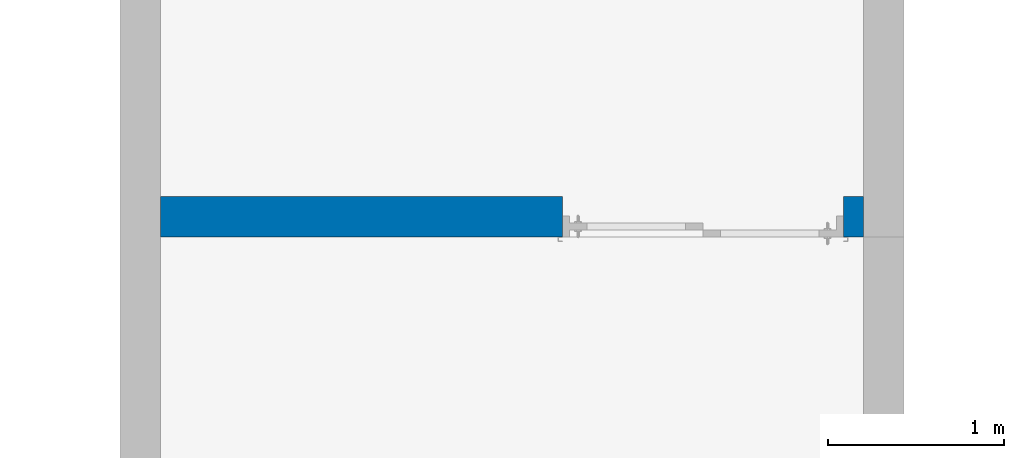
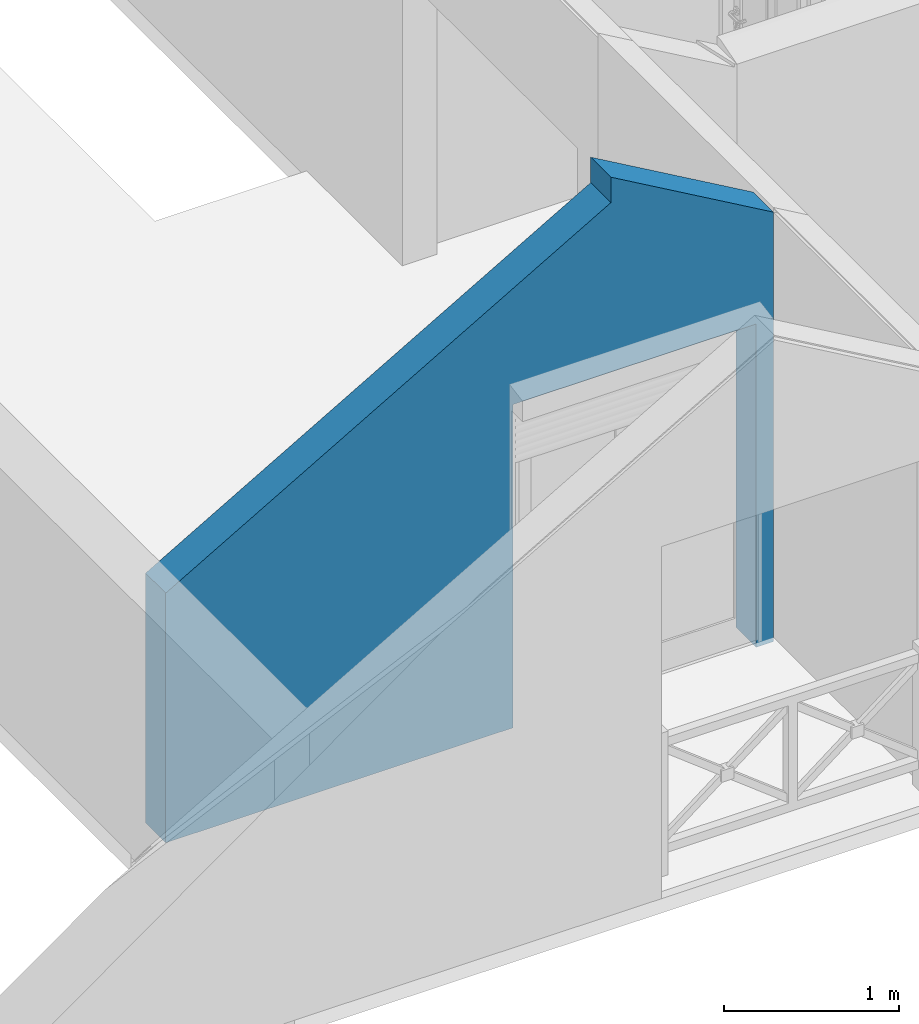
# One storey, part 4 of 8: 1 wall, 1 opening.
"""IFC2X3 building model written with IfcOpenShell, lengths in metres."""

from ifc_helpers import new_model, entity, si_unit, converted_unit, derived_unit, money_unit, direction, frame, origin_with_axes, origin_2d_with_axis, place, context, subcontext, project, spatial, polyline, rectangle, outline, extrude, boolean, clip, bounded_halfspace, faceted_brep, material, type_object, element, save


model = new_model("IFC2X3")

# Units and contexts
model_context = context("Model", 3, precision=1e-05, world=origin_with_axes(), true_north=direction((0.0, 1.0)))
body_context = subcontext(model_context, "Body", "Model", "MODEL_VIEW")
ifc_project = project(units=[si_unit("LENGTHUNIT", "METRE"), si_unit("AREAUNIT", "SQUARE_METRE"), si_unit("VOLUMEUNIT", "CUBIC_METRE"), converted_unit("PLANEANGLEUNIT", "DEGREE", entity("IfcPlaneAngleMeasure", 0.0174532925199), si_unit("PLANEANGLEUNIT", "RADIAN"), dimensions=[0, 0, 0, 0, 0, 0, 0]), si_unit("SOLIDANGLEUNIT", "STERADIAN"), money_unit("CHF"), converted_unit("TIMEUNIT", "Year", entity("IfcTimeMeasure", 31556926.0), si_unit("TIMEUNIT", "SECOND"), dimensions=[0, 0, 1, 0, 0, 0, 0]), si_unit("MASSUNIT", "GRAM", prefix="KILO"), si_unit("THERMODYNAMICTEMPERATUREUNIT", "DEGREE_CELSIUS"), si_unit("LUMINOUSINTENSITYUNIT", "LUMEN"), si_unit("ENERGYUNIT", "JOULE", prefix="MEGA"), derived_unit("THERMALCONDUCTANCEUNIT", [(si_unit("POWERUNIT", "WATT"), 1), (si_unit("LENGTHUNIT", "METRE"), -1), (si_unit("THERMODYNAMICTEMPERATUREUNIT", "KELVIN"), -1)]), derived_unit("SPECIFICHEATCAPACITYUNIT", [(si_unit("ENERGYUNIT", "JOULE"), 1), (si_unit("MASSUNIT", "GRAM", prefix="KILO"), -1), (si_unit("THERMODYNAMICTEMPERATUREUNIT", "KELVIN"), -1)]), derived_unit("MASSDENSITYUNIT", [(si_unit("MASSUNIT", "GRAM", prefix="KILO"), 1), (si_unit("VOLUMEUNIT", "CUBIC_METRE"), -1)])], contexts=[model_context])

# Site, building, storey
site_placement = place(None, origin_with_axes())
site = spatial("IfcSite", under=ifc_project, at=site_placement, Name="Site", CompositionType="ELEMENT")
building_placement = place(site_placement, origin_with_axes())
building = spatial("IfcBuilding", under=site, at=building_placement, Name="Bâtiment", CompositionType="ELEMENT")
storey_placement = place(building_placement, frame((0.0, 0.0, 6.0), z_axis=(0.0, 0.0, 1.0), x_axis=(1.0, 0.0, 0.0)))
storey = spatial("IfcBuildingStorey", under=building, at=storey_placement, Name="COMBLES", CompositionType="ELEMENT", Elevation=6.0)

# Wall, opening
ifc_material = material(Name="Hachure solide 2628782308")
wall_type = type_object("IfcWallType", Name="Hachure solide 2628782308 230", PredefinedType="NOTDEFINED")
wall_placement = place(storey_placement, frame((87.7435190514, 9.04926660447, -3.37), z_axis=(0.0, 0.0, 1.0), x_axis=(1.0, 0.0, 0.0)))
wall = element("IfcWall", 1, at=wall_placement, inside=storey, type_object=wall_type, material=ifc_material, Name="MurExt-016", context=body_context, shape_type="CSG", body=[
    boolean("DIFFERENCE", boolean("DIFFERENCE", clip(clip(clip(clip(clip(extrude(outline(polyline([(0.0, 0.0), (4.23, 0.0), (4.23, 0.23), (0.0, 0.23), (0.0, 0.0)])), origin_with_axes(), (0.0, 0.0, 1.0), 4.0), bounded_halfspace(frame((-0.752468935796, 0.0, 1.30331442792), z_axis=(0.5, 0.0, -0.866025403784), x_axis=(0.0, 1.0, 0.0)), True, origin_with_axes(), polyline([(-3.24001000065, -0.01), (2.92999999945, -0.01), (2.92999999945, 0.24), (-3.24001000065, 0.24), (-3.24001000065, -0.01)]))), bounded_halfspace(frame((-0.839071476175, 0.0, 1.45331442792), z_axis=(0.5, 0.0, -0.866025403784), x_axis=(0.0, 1.0, 0.0)), True, origin_with_axes(), polyline([(-3.24001000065, -0.01), (2.92999999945, -0.01), (2.92999999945, 0.24), (-3.24001000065, 0.24), (-3.24001000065, -0.01)]))), bounded_halfspace(frame((-0.839071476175, 0.0, 1.45331442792), z_axis=(0.5, 0.0, -0.866025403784), x_axis=(0.0, 1.0, 0.0)), True, origin_with_axes(), polyline([(-3.24001000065, -0.01), (2.92999999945, -0.01), (2.92999999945, 0.24), (-3.24001000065, 0.24), (-3.24001000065, -0.01)]))), bounded_halfspace(frame((2.3040714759, 0.0, 3.99076886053), z_axis=(-0.5, 0.0, -0.866025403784), x_axis=(0.0, 1.0, 0.0)), True, origin_with_axes(), polyline([(2.92999999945, -0.01), (9.10001002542, -0.01), (9.10001002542, 0.24), (2.92999999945, 0.24), (2.92999999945, -0.01)]))), bounded_halfspace(frame((2.30840160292, 0.0, 3.99826886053), z_axis=(-0.5, 0.0, -0.866025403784), x_axis=(0.0, 1.0, 0.0)), True, origin_with_axes(), polyline([(2.92999999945, -0.01), (9.10001002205, -0.01), (9.10001002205, 0.24), (2.92999999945, 0.24), (2.92999999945, -0.01)]))), faceted_brep([(2.286535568, 0.23, 0.0), (2.286535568, 0.23, 0.05), (3.886535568, 0.23, 0.05), (3.886535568, 0.23, 0.0), (2.286535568, 0.0, 0.0), (2.286535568, 0.0, 0.05), (3.886535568, 0.0, 0.05), (3.886535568, 0.0, 0.0)], [[[0, 1, 2, 3]], [[1, 0, 4, 5]], [[2, 1, 5, 6]], [[3, 2, 6, 7]], [[4, 0, 3, 7]], [[5, 4, 7, 6]]])), faceted_brep([(2.92999999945, 0.23, 3.63), (4.0, 0.23, 3.01223521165), (4.0, 0.23, 3.02162407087), (2.92999999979, 0.23, 3.63938885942), (0.0, 0.23, 1.94775257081), (0.0, 0.23, 1.95929957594), (2.75321201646, 0.23, 3.54886727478), (2.75321201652, 0.23, 3.5546407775), (2.92999999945, 0.23, 3.65670936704), (3.10678798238, 0.23, 3.5546407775), (3.10678798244, 0.23, 3.54886727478), (4.0, 0.23, 3.033171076), (4.0, 0.23, 3.18), (4.23, 0.23, 3.18), (4.23, 0.23, 0.0), (4.0, 0.23, 0.0), (4.0, 0.23, 2.9891412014), (2.92999999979, 0.23, 3.60690598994), (0.0, 0.23, 1.91526970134), (0.0, 0.23, 1.93836371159), (2.92999999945, 0.0, 3.63), (4.0, 0.0, 3.01223521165), (4.0, 0.0, 3.02162407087), (2.92999999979, 0.0, 3.63938885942), (0.0, 0.0, 1.94775257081), (0.0, 0.0, 1.95929957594), (2.75345606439, 0.0, 3.54900817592), (2.75345606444, 0.0, 3.55478167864), (2.92999999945, 0.0, 3.65670936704), (3.10654393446, 0.0, 3.55478167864), (3.10654393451, 0.0, 3.54900817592), (4.0, 0.0, 3.033171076), (4.0, 0.0, 3.18), (4.23, 0.0, 3.18), (4.23, 0.0, 0.0), (4.0, 0.0, 0.0), (4.0, 0.0, 2.9891412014), (2.92999999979, 0.0, 3.60690598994), (0.0, 0.0, 1.91526970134), (0.0, 0.0, 1.93836371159)], [[[0, 1, 2, 3, 4, 5, 6, 7, 8, 9, 10, 11, 12, 13, 14, 15, 16, 17, 18, 19]], [[1, 0, 20, 21]], [[2, 1, 21, 22]], [[3, 2, 22, 23]], [[4, 3, 23, 24]], [[4, 24, 25, 5]], [[25, 26, 6, 5]], [[26, 27, 7, 6]], [[8, 7, 27, 28]], [[9, 8, 28, 29]], [[10, 9, 29, 30]], [[11, 10, 30, 31]], [[12, 11, 31, 32]], [[33, 13, 12, 32]], [[13, 33, 34, 14]], [[35, 15, 14, 34]], [[16, 15, 35, 36]], [[17, 16, 36, 37]], [[18, 17, 37, 38]], [[39, 19, 18, 38]], [[0, 19, 39, 20]], [[20, 39, 38, 37, 36, 35, 34, 33, 32, 31, 30, 29, 28, 27, 26, 25, 24, 23, 22, 21]]])),
])
opening_placement = place(wall_placement, frame((3.086535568, 0.0, 0.05), z_axis=(0.0, 0.0, 1.0), x_axis=(1.0, 0.0, 0.0)))
element("IfcOpeningElement", 2, at=opening_placement, cuts=wall, Name="Por-023", context=body_context, shape_type="SweptSolid", body=[
    extrude(rectangle(XDim=1.6, YDim=2.2, at=origin_2d_with_axis()), frame((0.0, 0.23, 1.1), z_axis=(0.0, 1.0, 0.0), x_axis=(1.0, 0.0, 0.0)), (0.0, 0.0, -1.0), 0.69),
])

save(model, "model.ifc")
